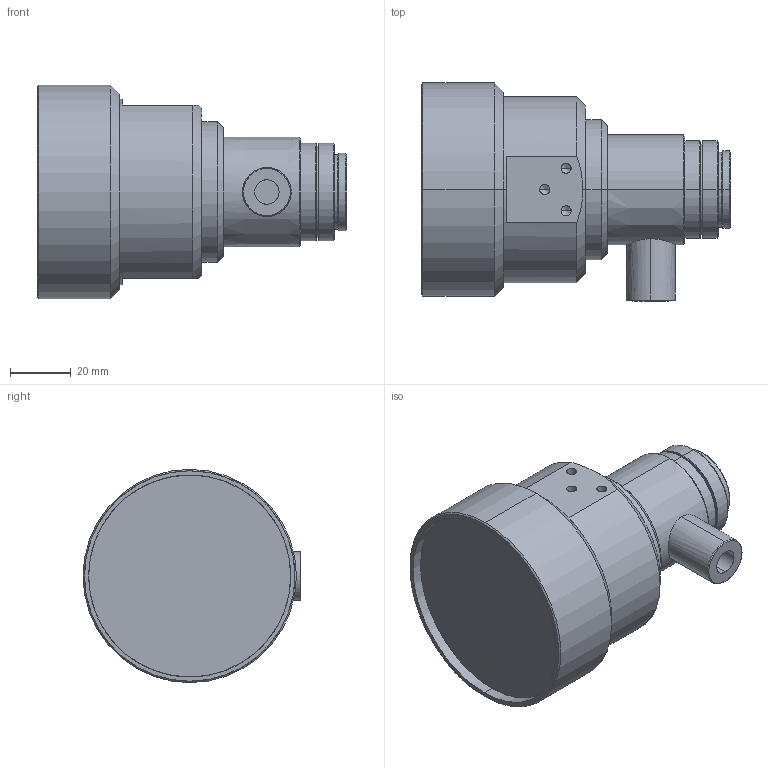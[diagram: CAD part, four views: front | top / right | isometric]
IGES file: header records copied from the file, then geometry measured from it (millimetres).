
Start section: SolidWorks IGES file using analytic representation for surfaces
Global section: file name: C:\Users\miura_vst\Desktop\3D\HP提出用過去の分確認\VS-TCM017-110CO\VS-TCM017-110CO.IGS; native system: SolidWorks 2015; preprocessor: SolidWorks 2015; author: miura_vst; date: 150828.145437; units: millimetre
Bounding box: 101.5 x 71.5 x 70 mm (x, y, z)
Surface area: 25749.3 mm2 (no closed solid volume)
Topology: 0 solids, 0 shells, 88 faces, 1802 edges, 1790 vertices
Faces by surface type: revolution 72, bspline 16
